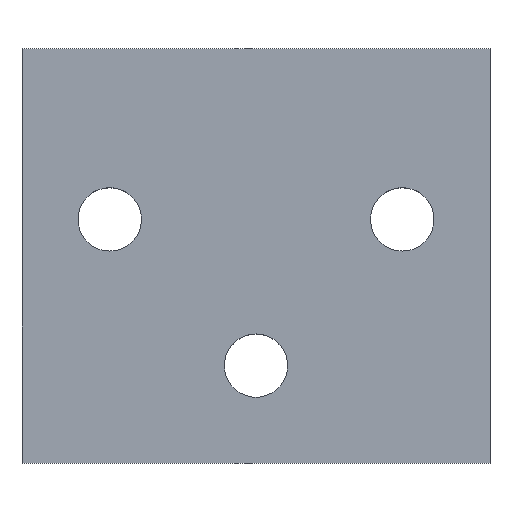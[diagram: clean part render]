
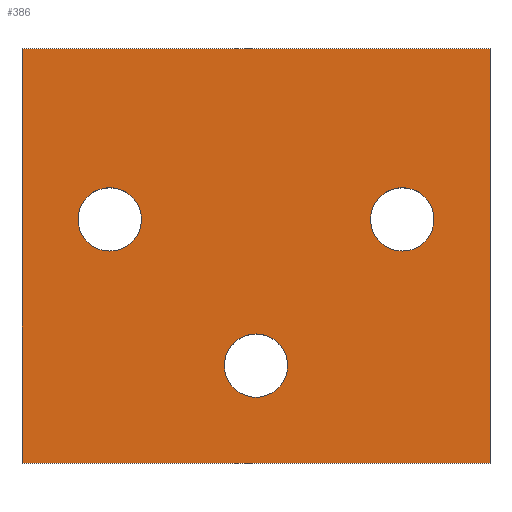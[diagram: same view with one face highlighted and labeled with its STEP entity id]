
A CAD part, top view. The second image highlights one B-rep face of the part: STEP entity #386.
In plain terms, the highlighted planar face has unit normal (0, 0, 1).
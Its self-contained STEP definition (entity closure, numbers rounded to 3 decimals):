
#91=VERTEX_POINT(' ',#92);
#92=CARTESIAN_POINT('',(-48.,85.,15.));
#93=VERTEX_POINT(' ',#94);
#94=CARTESIAN_POINT('',(48.,85.,15.));
#99=VERTEX_POINT(' ',#100);
#100=CARTESIAN_POINT('',(-48.,0.,15.));
#103=VERTEX_POINT(' ',#104);
#104=CARTESIAN_POINT('',(48.,0.,15.));
#117=VERTEX_POINT(' ',#118);
#118=CARTESIAN_POINT('',(-30.,56.5,15.));
#119=VERTEX_POINT(' ',#120);
#120=CARTESIAN_POINT('',(-30.,43.5,15.));
#121=VERTEX_POINT(' ',#122);
#122=CARTESIAN_POINT('',(30.,56.5,15.));
#123=VERTEX_POINT(' ',#124);
#124=CARTESIAN_POINT('',(30.,43.5,15.));
#125=VERTEX_POINT(' ',#126);
#126=CARTESIAN_POINT('',(0.,26.5,15.));
#127=VERTEX_POINT(' ',#128);
#128=CARTESIAN_POINT('',(0.,13.5,15.));
#134=LINE('',#135,#136);
#135=CARTESIAN_POINT('',(48.,85.,15.));
#136=VECTOR('',#137,1.);
#137=DIRECTION('',(-1.,0.,0.));
#138=EDGE_CURVE(' ',#93,#91,#134,.T.);
#154=LINE('',#155,#156);
#155=CARTESIAN_POINT('',(-48.,85.,15.));
#156=VECTOR('',#157,1.);
#157=DIRECTION('',(0.,-1.,0.));
#158=EDGE_CURVE(' ',#91,#99,#154,.T.);
#169=LINE('',#170,#171);
#170=CARTESIAN_POINT('',(-48.,0.,15.));
#171=VECTOR('',#172,1.);
#172=DIRECTION('',(1.,0.,0.));
#173=EDGE_CURVE(' ',#99,#103,#169,.T.);
#184=LINE('',#185,#186);
#185=CARTESIAN_POINT('',(48.,0.,15.));
#186=VECTOR('',#187,1.);
#187=DIRECTION('',(0.,1.,0.));
#188=EDGE_CURVE(' ',#103,#93,#184,.T.);
#225=CIRCLE('',#226,6.5);
#226=AXIS2_PLACEMENT_3D('',#227,#228,#229);
#227=CARTESIAN_POINT('',(-30.,50.,15.));
#228=DIRECTION('',(0.,0.,-1.));
#229=DIRECTION('',(-1.,0.,0.));
#230=EDGE_CURVE(' ',#117,#119,#225,.T.);
#231=CIRCLE('',#232,6.5);
#232=AXIS2_PLACEMENT_3D('',#233,#234,#235);
#233=CARTESIAN_POINT('',(-30.,50.,15.));
#234=DIRECTION('',(0.,0.,-1.));
#235=DIRECTION('',(1.,0.,0.));
#236=EDGE_CURVE(' ',#119,#117,#231,.T.);
#237=CIRCLE('',#238,6.5);
#238=AXIS2_PLACEMENT_3D('',#239,#240,#241);
#239=CARTESIAN_POINT('',(30.,50.,15.));
#240=DIRECTION('',(0.,0.,-1.));
#241=DIRECTION('',(-1.,0.,0.));
#242=EDGE_CURVE(' ',#121,#123,#237,.T.);
#243=CIRCLE('',#244,6.5);
#244=AXIS2_PLACEMENT_3D('',#245,#246,#247);
#245=CARTESIAN_POINT('',(30.,50.,15.));
#246=DIRECTION('',(0.,0.,-1.));
#247=DIRECTION('',(1.,0.,0.));
#248=EDGE_CURVE(' ',#123,#121,#243,.T.);
#249=CIRCLE('',#250,6.5);
#250=AXIS2_PLACEMENT_3D('',#251,#252,#253);
#251=CARTESIAN_POINT('',(0.,20.,15.));
#252=DIRECTION('',(0.,0.,-1.));
#253=DIRECTION('',(-1.,0.,0.));
#254=EDGE_CURVE(' ',#125,#127,#249,.T.);
#255=CIRCLE('',#256,6.5);
#256=AXIS2_PLACEMENT_3D('',#257,#258,#259);
#257=CARTESIAN_POINT('',(0.,20.,15.));
#258=DIRECTION('',(0.,0.,-1.));
#259=DIRECTION('',(1.,0.,0.));
#260=EDGE_CURVE(' ',#127,#125,#255,.T.);
#363=ORIENTED_EDGE('',*,*,#138,.T.);
#364=ORIENTED_EDGE('',*,*,#158,.T.);
#365=ORIENTED_EDGE('',*,*,#173,.T.);
#366=ORIENTED_EDGE('',*,*,#188,.T.);
#367=EDGE_LOOP('',(#363,#364,#365,#366));
#368=FACE_OUTER_BOUND('',#367,.T.);
#369=ORIENTED_EDGE('',*,*,#230,.T.);
#370=ORIENTED_EDGE('',*,*,#236,.T.);
#371=EDGE_LOOP('',(#369,#370));
#372=FACE_BOUND('',#371,.T.);
#373=ORIENTED_EDGE('',*,*,#242,.T.);
#374=ORIENTED_EDGE('',*,*,#248,.T.);
#375=EDGE_LOOP('',(#373,#374));
#376=FACE_BOUND('',#375,.T.);
#377=ORIENTED_EDGE('',*,*,#254,.T.);
#378=ORIENTED_EDGE('',*,*,#260,.T.);
#379=EDGE_LOOP('',(#377,#378));
#380=FACE_BOUND('',#379,.T.);
#381=PLANE('',#382);
#382=AXIS2_PLACEMENT_3D('',#383,#384,#385);
#383=CARTESIAN_POINT('',(48.,85.,15.));
#384=DIRECTION('',(0.,0.,1.));
#385=DIRECTION('',(1.,0.,0.));
#386=ADVANCED_FACE('',(#368,#372,#376,#380),#381,.T.);
